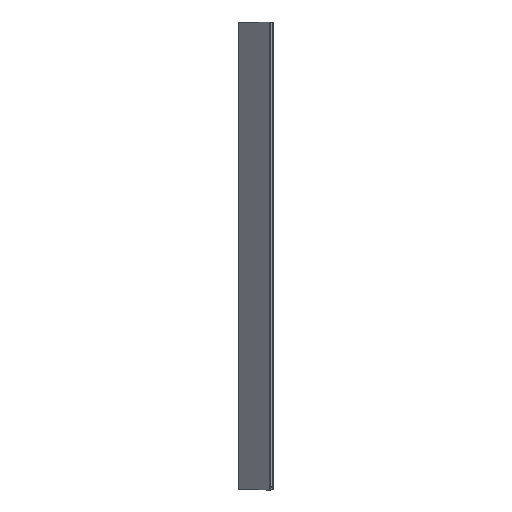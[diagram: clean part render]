
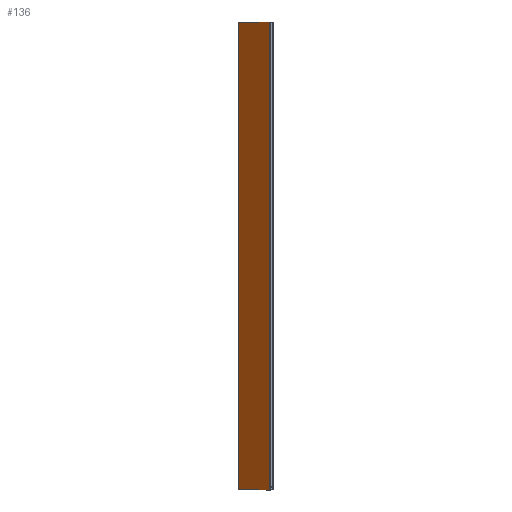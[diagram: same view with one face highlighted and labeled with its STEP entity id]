
A CAD part, left-side view. The second image highlights one B-rep face of the part: STEP entity #136.
In plain terms, the highlighted planar face has unit normal (-0.707, 0.707, 0) as drawn and (0.707, 0.707, 0) by its records, which use the part's own axes.
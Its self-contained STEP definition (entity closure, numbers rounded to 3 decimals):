
#2 = CARTESIAN_POINT ( 'NONE',  ( 101.273, 99.859, 1500. ) ) ;
#57 = ORIENTED_EDGE ( 'NONE', *, *, #684, .F. ) ;
#136 = ADVANCED_FACE ( 'NONE', ( #1503 ), #1112, .T. ) ;
#146 = VECTOR ( 'NONE', #369, 1000. ) ;
#275 = VECTOR ( 'NONE', #1215, 1000. ) ;
#369 = DIRECTION ( 'NONE',  ( 0.707, -0.707, 0. ) ) ;
#436 = CARTESIAN_POINT ( 'NONE',  ( 101.273, 99.859, 0. ) ) ;
#512 = CARTESIAN_POINT ( 'NONE',  ( 198.859, 2.273, 1500. ) ) ;
#535 = AXIS2_PLACEMENT_3D ( 'NONE', #1091, #1127, #1080 ) ;
#540 = LINE ( 'NONE', #1520, #146 ) ;
#661 = ORIENTED_EDGE ( 'NONE', *, *, #668, .F. ) ;
#667 = ORIENTED_EDGE ( 'NONE', *, *, #802, .F. ) ;
#668 = EDGE_CURVE ( 'NONE', #1511, #1442, #1245, .T. ) ;
#674 = EDGE_CURVE ( 'NONE', #1038, #1511, #540, .T. ) ;
#680 = CARTESIAN_POINT ( 'NONE',  ( 198.859, 2.273, 1500. ) ) ;
#684 = EDGE_CURVE ( 'NONE', #1382, #1038, #827, .T. ) ;
#724 = DIRECTION ( 'NONE',  ( 0., 0., 1. ) ) ;
#802 = EDGE_CURVE ( 'NONE', #1442, #1382, #1233, .T. ) ;
#813 = ORIENTED_EDGE ( 'NONE', *, *, #674, .F. ) ;
#827 = LINE ( 'NONE', #2, #275 ) ;
#985 = VECTOR ( 'NONE', #1161, 1000. ) ;
#1038 = VERTEX_POINT ( 'NONE', #436 ) ;
#1080 = DIRECTION ( 'NONE',  ( -0.707, 0.707, 0. ) ) ;
#1091 = CARTESIAN_POINT ( 'NONE',  ( 100.566, 100.566, 1500. ) ) ;
#1112 = PLANE ( 'NONE',  #535 ) ;
#1127 = DIRECTION ( 'NONE',  ( 0.707, 0.707, 0. ) ) ;
#1161 = DIRECTION ( 'NONE',  ( -0.707, 0.707, 0. ) ) ;
#1171 = EDGE_LOOP ( 'NONE', ( #667, #661, #813, #57 ) ) ;
#1215 = DIRECTION ( 'NONE',  ( 0., 0., -1. ) ) ;
#1233 = LINE ( 'NONE', #680, #985 ) ;
#1245 = LINE ( 'NONE', #1311, #1450 ) ;
#1290 = CARTESIAN_POINT ( 'NONE',  ( 198.859, 2.273, 0. ) ) ;
#1311 = CARTESIAN_POINT ( 'NONE',  ( 198.859, 2.273, 1500. ) ) ;
#1354 = CARTESIAN_POINT ( 'NONE',  ( 101.273, 99.859, 1500. ) ) ;
#1382 = VERTEX_POINT ( 'NONE', #1354 ) ;
#1442 = VERTEX_POINT ( 'NONE', #512 ) ;
#1450 = VECTOR ( 'NONE', #724, 1000. ) ;
#1503 = FACE_OUTER_BOUND ( 'NONE', #1171, .T. ) ;
#1511 = VERTEX_POINT ( 'NONE', #1290 ) ;
#1520 = CARTESIAN_POINT ( 'NONE',  ( 101.273, 99.859, 0. ) ) ;
